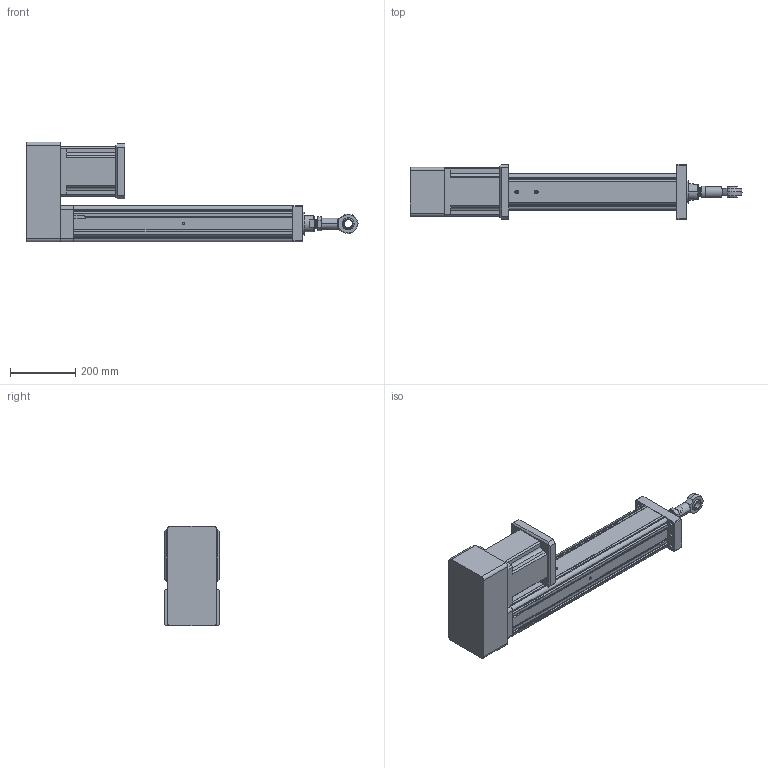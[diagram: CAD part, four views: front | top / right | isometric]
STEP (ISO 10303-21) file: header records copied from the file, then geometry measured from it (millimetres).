
FILE_DESCRIPTION (( 'STEP AP203' ), '1' );
FILE_NAME ('YRJ110-L500-H3K3.STEP', '2020-01-04T06:27:14', ( 'User' ), ( 'China' ), 'SwSTEP 2.0', 'SolidWorks 2016', '' );
FILE_SCHEMA (( 'CONFIG_CONTROL_DESIGN' ));
Length unit declared in the file: millimetre
Products named in the file (11): _BNC01-SI25T_K-R-001; _BNC01-SI25T_K-R-002; BNC01-SI25T_K-R; K3-110; 095-100俴最倰第; 萇儂碟-110; H3-110-1; 142熬厒儂; H3-110-2; K1-110; YRJ110-L500-H3K3
Assembly tree (10 placements, depth 4):
  YRJ110-L500-H3K3
    095-100俴最倰第
    萇儂碟-110
    142熬厒儂
    K3-110
      K1-110
      BNC01-SI25T_K-R
        _BNC01-SI25T_K-R-001
        _BNC01-SI25T_K-R-002
    H3-110-1
    H3-110-2
Bounding box: 1015 x 170 x 305.5 mm (x, y, z)
Volume: 12822825.4 mm3; surface area: 1115031.8 mm2
Topology: 8 solids, 8 shells, 396 faces, 1101 edges, 709 vertices
Faces by surface type: plane 178, cylinder 170, cone 34, bspline 14
Entity records: 22819 total; most frequent: CARTESIAN_POINT 11710, ORIENTED_EDGE 2146, DIRECTION 1998, EDGE_CURVE 1073, VERTEX_POINT 709, AXIS2_PLACEMENT_3D 677, LINE 644, VECTOR 644
